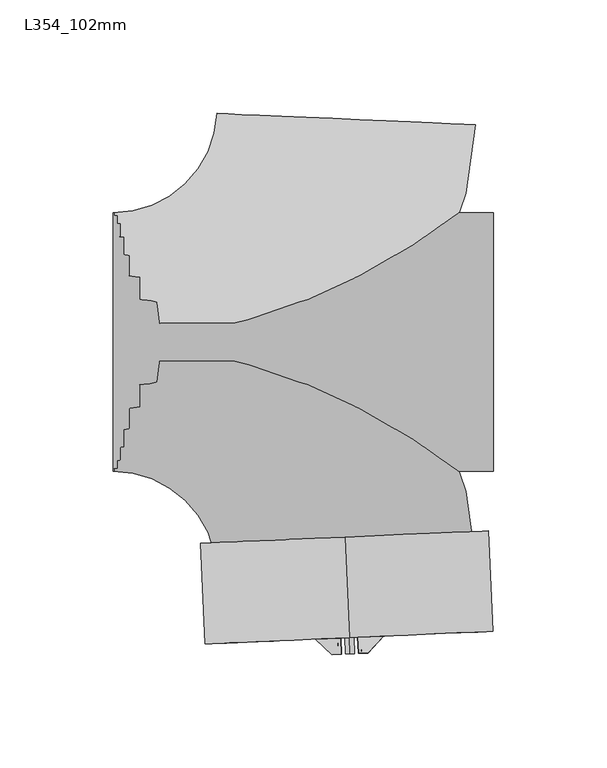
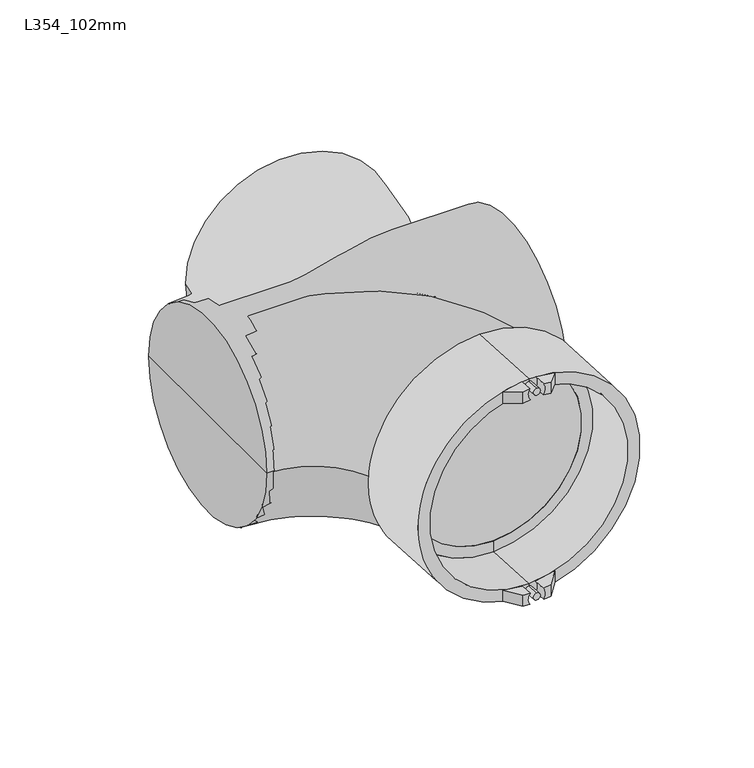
"""IFC4 building model written with IfcOpenShell, lengths in millimetres: pipe fitting geometry, Durapipe_PipeFitting_VulcatheneEnfusion_DoubleBranch_L35 : L354_102mm."""

from ifc_helpers import new_model, si_unit, point, frame, frame_2d, origin, place, context, project, spatial, polyline, circle_curve, ellipse_curve, trimmed, segment, composite_curve, outline, extrude, source, transform, mapped, element, save
from ifc_brep_helpers import plane_surface, cylinder_surface, revolved_surface, advanced_brep


def l354_102mm_241b6396(model_context):
    return source(origin(), model_context, "Body", "SolidModel", [
        advanced_brep(
        [(9.7100443, -137.2166448, -57.0290942), (9.9141237, -137.2077345, -63.4790942), (13.930527, -137.0323745, -63.1024278), (13.930527, -137.0323745, -56.5957498), (20.6741098, -129.6311793, -61.805825), (9.604426, -130.1144921, -63.4790942), (9.4003467, -130.1234024, -57.0290942), (20.6741098, -129.6311793, -55.1463734)],
        [
            (0, 1, circle_curve(frame((5.9980841, -137.3787124, -60.375), z_axis=(-0.04361938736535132, 0.9990482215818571, 0.0), x_axis=(0.0, 0.0, 1.0)), 5.0)),
            (1, 2, circle_curve(frame((5.9980841, -137.3787124, 0.0), z_axis=(0.04361938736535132, -0.9990482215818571, 0.0), x_axis=(0.0, 0.0, 1.0)), 63.6)),
            (2, 3),
            (3, 0, circle_curve(frame((5.9980841, -137.3787124, 0.0), z_axis=(-0.04361938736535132, 0.9990482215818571, 0.0), x_axis=(0.0, 0.0, 1.0)), 57.15)),
            (4, 5, circle_curve(frame((5.6883865, -130.2854701, 0.0), z_axis=(-0.04361938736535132, 0.9990482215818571, 0.0), x_axis=(0.0, 0.0, 1.0)), 63.6)),
            (5, 6, circle_curve(frame((5.6883865, -130.2854701, -60.375), z_axis=(0.04361938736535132, -0.9990482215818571, 0.0), x_axis=(0.0, 0.0, 1.0)), 5.0)),
            (6, 7, circle_curve(frame((5.6883865, -130.2854701, 0.0), z_axis=(0.04361938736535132, -0.9990482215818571, 0.0), x_axis=(0.0, 0.0, 1.0)), 57.15)),
            (7, 4),
            (6, 0),
            (3, 7, ellipse_curve(frame((6.3463843, -145.3560983, 0.0), z_axis=(0.739182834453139, -0.6735048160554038, 0.0), x_axis=(0.6735048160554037, 0.7391828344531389, 0.0)), 81.0515868, 57.15)),
            (4, 2, ellipse_curve(frame((6.3463843, -145.3560983, 0.0), z_axis=(-0.739182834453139, 0.6735048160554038, 0.0), x_axis=(-0.6735048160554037, -0.7391828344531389, 0.0)), 90.1991413, 63.6)),
            (1, 5),
        ],
        [
            plane_surface(frame((20.9838074, -136.7244216, -61.805825), z_axis=(0.04361938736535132, -0.9990482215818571, 0.0), x_axis=(0.0, 0.0, 1.0))),
            plane_surface(frame((20.6741098, -129.6311793, -61.805825), z_axis=(-0.04361938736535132, 0.9990482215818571, 0.0), x_axis=(0.0, 0.0, -1.0))),
            revolved_surface(polyline([(3.8394125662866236, -87.93700461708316, 57.15), (8.853356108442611, -202.77519197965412, 57.15)]), (5.6883865, -130.2854701, 0.0), (-0.04361938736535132, 0.9990482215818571, 0.0)),
            cylinder_surface(frame((5.6883865, -130.2854701, 0.0), z_axis=(0.04361938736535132, -0.9990482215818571, 0.0), x_axis=(0.0, 0.0, 1.0)), 63.6),
            revolved_surface(polyline([(5.998084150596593, -137.37871248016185, -55.375), (5.688386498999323, -130.28547007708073, -55.375)]), (5.6883865, -130.2854701, -60.375), (0.04361938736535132, -0.9990482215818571, 0.0)),
            plane_surface(frame((20.6741098, -129.6311793, 63.6), z_axis=(0.739182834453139, -0.6735048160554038, 0.0), x_axis=(0.0, 0.0, -1.0))),
        ],
        [
            (0, [[1, 2, 3, 4]]),
            (1, [[5, 6, 7, 8]]),
            (2, [[-7, 9, -4, 10]]),
            (3, [[-5, 11, -2, 12]]),
            (4, [[-1, -9, -6, -12]]),
            (5, [[-3, -11, -8, -10]]),
        ],
    ),
        advanced_brep(
        [(2.0820446, -137.5496904, -63.4790942), (2.2861239, -137.5407801, -57.0290942), (-1.9343588, -137.7250504, -56.5957498), (-1.9343588, -137.7250504, -63.1024278), (1.7723469, -130.456448, -63.4790942), (-9.2973369, -130.9397609, -61.805825), (-9.2973369, -130.9397609, -55.1463734), (1.9764263, -130.4475378, -57.0290942)],
        [
            (0, 1, circle_curve(frame((5.9980841, -137.3787124, -60.375), z_axis=(-0.04361938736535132, 0.9990482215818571, 0.0), x_axis=(0.0, 0.0, 1.0)), 5.0)),
            (1, 2, circle_curve(frame((5.9980841, -137.3787124, 0.0), z_axis=(-0.04361938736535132, 0.9990482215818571, 0.0), x_axis=(0.0, 0.0, 1.0)), 57.15)),
            (2, 3),
            (3, 0, circle_curve(frame((5.9980841, -137.3787124, 0.0), z_axis=(0.04361938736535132, -0.9990482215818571, 0.0), x_axis=(0.0, 0.0, 1.0)), 63.6)),
            (4, 5, circle_curve(frame((5.6883865, -130.2854701, 0.0), z_axis=(-0.04361938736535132, 0.9990482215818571, 0.0), x_axis=(0.0, 0.0, 1.0)), 63.6)),
            (5, 6),
            (6, 7, circle_curve(frame((5.6883865, -130.2854701, 0.0), z_axis=(0.04361938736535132, -0.9990482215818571, 0.0), x_axis=(0.0, 0.0, 1.0)), 57.15)),
            (7, 4, circle_curve(frame((5.6883865, -130.2854701, -60.375), z_axis=(0.04361938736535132, -0.9990482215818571, 0.0), x_axis=(0.0, 0.0, 1.0)), 5.0)),
            (6, 2, ellipse_curve(frame((6.3463843, -145.3560983, 0.0), z_axis=(-0.677670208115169, -0.7353659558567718, 0.0), x_axis=(-0.7353659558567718, 0.6776702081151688, 0.0)), 81.0515868, 57.15)),
            (1, 7),
            (4, 0),
            (3, 5, ellipse_curve(frame((6.3463843, -145.3560983, 0.0), z_axis=(0.677670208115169, 0.7353659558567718, 0.0), x_axis=(0.7353659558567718, -0.6776702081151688, 0.0)), 90.1991413, 63.6)),
        ],
        [
            plane_surface(frame((20.9838074, -136.7244216, -61.805825), z_axis=(0.04361938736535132, -0.9990482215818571, 0.0), x_axis=(0.0, 0.0, 1.0))),
            plane_surface(frame((20.6741098, -129.6311793, -61.805825), z_axis=(-0.04361938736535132, 0.9990482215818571, 0.0), x_axis=(0.0, 0.0, -1.0))),
            revolved_surface(polyline([(3.8394125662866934, -87.93700461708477, 57.15), (8.85335610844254, -202.7751919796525, 57.15)]), (5.6883865, -130.2854701, 0.0), (-0.04361938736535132, 0.9990482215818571, 0.0)),
            cylinder_surface(frame((5.6883865, -130.2854701, 0.0), z_axis=(0.04361938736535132, -0.9990482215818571, 0.0), x_axis=(0.0, 0.0, 1.0)), 63.6),
            revolved_surface(polyline([(5.99808414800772, -137.3787124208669, -55.375), (5.688386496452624, -130.28547001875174, -55.375)]), (5.6883865, -130.2854701, -60.375), (0.04361938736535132, -0.9990482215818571, 0.0)),
            plane_surface(frame((-1.9343588, -137.7250504, 63.6), z_axis=(-0.677670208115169, -0.7353659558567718, 0.0), x_axis=(0.0, 0.0, -1.0))),
        ],
        [
            (0, [[1, 2, 3, 4]]),
            (1, [[5, 6, 7, 8]]),
            (2, [[-7, 9, -2, 10]]),
            (3, [[-5, 11, -4, 12]]),
            (4, [[-1, -11, -8, -10]]),
            (5, [[-3, -9, -6, -12]]),
        ],
    ),
        advanced_brep(
        [(9.9141237, -137.2077345, 63.4790942), (9.7100443, -137.2166448, 57.0290942), (13.930527, -137.0323745, 56.5957498), (13.930527, -137.0323745, 63.1024278), (9.604426, -130.1144921, 63.4790942), (20.6741098, -129.6311793, 61.805825), (20.6741098, -129.6311793, 55.1463734), (9.4003467, -130.1234024, 57.0290942)],
        [
            (0, 1, circle_curve(frame((5.9980841, -137.3787124, 60.375), z_axis=(-0.04361938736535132, 0.9990482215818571, 0.0), x_axis=(0.0, 0.0, 1.0)), 5.0)),
            (1, 2, circle_curve(frame((5.9980841, -137.3787124, 0.0), z_axis=(-0.04361938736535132, 0.9990482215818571, 0.0), x_axis=(0.0, 0.0, 1.0)), 57.15)),
            (2, 3),
            (3, 0, circle_curve(frame((5.9980841, -137.3787124, 0.0), z_axis=(0.04361938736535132, -0.9990482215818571, 0.0), x_axis=(0.0, 0.0, 1.0)), 63.6)),
            (4, 5, circle_curve(frame((5.6883865, -130.2854701, 0.0), z_axis=(-0.04361938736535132, 0.9990482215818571, 0.0), x_axis=(0.0, 0.0, 1.0)), 63.6)),
            (5, 6),
            (6, 7, circle_curve(frame((5.6883865, -130.2854701, 0.0), z_axis=(0.04361938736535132, -0.9990482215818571, 0.0), x_axis=(0.0, 0.0, 1.0)), 57.15)),
            (7, 4, circle_curve(frame((5.6883865, -130.2854701, 60.375), z_axis=(0.04361938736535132, -0.9990482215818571, 0.0), x_axis=(0.0, 0.0, 1.0)), 5.0)),
            (6, 2, ellipse_curve(frame((6.3463843, -145.3560983, 0.0), z_axis=(0.739182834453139, -0.6735048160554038, 0.0), x_axis=(0.6735048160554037, 0.7391828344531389, 0.0)), 81.0515868, 57.15)),
            (1, 7),
            (4, 0),
            (3, 5, ellipse_curve(frame((6.3463843, -145.3560983, 0.0), z_axis=(-0.739182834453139, 0.6735048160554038, 0.0), x_axis=(-0.6735048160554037, -0.7391828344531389, 0.0)), 90.1991413, 63.6)),
        ],
        [
            plane_surface(frame((20.9838074, -136.7244216, -61.805825), z_axis=(0.04361938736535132, -0.9990482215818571, 0.0), x_axis=(0.0, 0.0, 1.0))),
            plane_surface(frame((20.6741098, -129.6311793, -61.805825), z_axis=(-0.04361938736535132, 0.9990482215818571, 0.0), x_axis=(0.0, 0.0, -1.0))),
            revolved_surface(polyline([(3.8394125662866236, -87.93700461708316, 57.15), (8.853356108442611, -202.77519197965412, 57.15)]), (5.6883865, -130.2854701, 0.0), (-0.04361938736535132, 0.9990482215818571, 0.0)),
            cylinder_surface(frame((5.6883865, -130.2854701, 0.0), z_axis=(0.04361938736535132, -0.9990482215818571, 0.0), x_axis=(0.0, 0.0, 1.0)), 63.6),
            revolved_surface(polyline([(5.998084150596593, -137.37871248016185, 65.375), (5.688386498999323, -130.28547007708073, 65.375)]), (5.6883865, -130.2854701, 60.375), (0.04361938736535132, -0.9990482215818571, 0.0)),
            plane_surface(frame((20.6741098, -129.6311793, 63.6), z_axis=(0.739182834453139, -0.6735048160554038, 0.0), x_axis=(0.0, 0.0, -1.0))),
        ],
        [
            (0, [[1, 2, 3, 4]]),
            (1, [[5, 6, 7, 8]]),
            (2, [[-7, 9, -2, 10]]),
            (3, [[-5, 11, -4, 12]]),
            (4, [[-1, -11, -8, -10]]),
            (5, [[-3, -9, -6, -12]]),
        ],
    ),
        advanced_brep(
        [(2.2861239, -137.5407801, 57.0290942), (2.0820446, -137.5496904, 63.4790942), (-1.9343588, -137.7250504, 63.1024278), (-1.9343588, -137.7250504, 56.5957498), (-9.2973369, -130.9397609, 61.805825), (1.7723469, -130.456448, 63.4790942), (1.9764263, -130.4475378, 57.0290942), (-9.2973369, -130.9397609, 55.1463734)],
        [
            (0, 1, circle_curve(frame((5.9980841, -137.3787124, 60.375), z_axis=(-0.04361938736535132, 0.9990482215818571, 0.0), x_axis=(0.0, 0.0, 1.0)), 5.0)),
            (1, 2, circle_curve(frame((5.9980841, -137.3787124, 0.0), z_axis=(0.04361938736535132, -0.9990482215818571, 0.0), x_axis=(0.0, 0.0, 1.0)), 63.6)),
            (2, 3),
            (3, 0, circle_curve(frame((5.9980841, -137.3787124, 0.0), z_axis=(-0.04361938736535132, 0.9990482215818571, 0.0), x_axis=(0.0, 0.0, 1.0)), 57.15)),
            (4, 5, circle_curve(frame((5.6883865, -130.2854701, 0.0), z_axis=(-0.04361938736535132, 0.9990482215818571, 0.0), x_axis=(0.0, 0.0, 1.0)), 63.6)),
            (5, 6, circle_curve(frame((5.6883865, -130.2854701, 60.375), z_axis=(0.04361938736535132, -0.9990482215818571, 0.0), x_axis=(0.0, 0.0, 1.0)), 5.0)),
            (6, 7, circle_curve(frame((5.6883865, -130.2854701, 0.0), z_axis=(0.04361938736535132, -0.9990482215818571, 0.0), x_axis=(0.0, 0.0, 1.0)), 57.15)),
            (7, 4),
            (6, 0),
            (3, 7, ellipse_curve(frame((6.3463843, -145.3560983, 0.0), z_axis=(-0.677670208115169, -0.7353659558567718, 0.0), x_axis=(-0.7353659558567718, 0.6776702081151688, 0.0)), 81.0515868, 57.15)),
            (4, 2, ellipse_curve(frame((6.3463843, -145.3560983, 0.0), z_axis=(0.677670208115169, 0.7353659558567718, 0.0), x_axis=(0.7353659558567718, -0.6776702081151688, 0.0)), 90.1991413, 63.6)),
            (1, 5),
        ],
        [
            plane_surface(frame((20.9838074, -136.7244216, -61.805825), z_axis=(0.04361938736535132, -0.9990482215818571, 0.0), x_axis=(0.0, 0.0, 1.0))),
            plane_surface(frame((20.6741098, -129.6311793, -61.805825), z_axis=(-0.04361938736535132, 0.9990482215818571, 0.0), x_axis=(0.0, 0.0, -1.0))),
            revolved_surface(polyline([(3.8394125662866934, -87.93700461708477, 57.15), (8.85335610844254, -202.7751919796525, 57.15)]), (5.6883865, -130.2854701, 0.0), (-0.04361938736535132, 0.9990482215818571, 0.0)),
            cylinder_surface(frame((5.6883865, -130.2854701, 0.0), z_axis=(0.04361938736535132, -0.9990482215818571, 0.0), x_axis=(0.0, 0.0, 1.0)), 63.6),
            revolved_surface(polyline([(5.99808414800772, -137.3787124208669, 65.375), (5.688386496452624, -130.28547001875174, 65.375)]), (5.6883865, -130.2854701, 60.375), (0.04361938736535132, -0.9990482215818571, 0.0)),
            plane_surface(frame((-1.9343588, -137.7250504, 63.6), z_axis=(-0.677670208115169, -0.7353659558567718, 0.0), x_axis=(0.0, 0.0, -1.0))),
        ],
        [
            (0, [[1, 2, 3, 4]]),
            (1, [[5, 6, 7, 8]]),
            (2, [[-7, 9, -4, 10]]),
            (3, [[-5, 11, -2, 12]]),
            (4, [[-1, -9, -6, -12]]),
            (5, [[-3, -11, -8, -10]]),
        ],
    ),
        extrude(outline(composite_curve([segment(trimmed(circle_curve(frame_2d((0.0, -2.0)), 2.0), [point((0.0, -4.0))], [point((0.0, 0.0))], False, "CARTESIAN"), True, "CONTINUOUS"), segment(trimmed(circle_curve(frame_2d((0.0, -2.0)), 2.0), [point((0.0, 0.0))], [point((0.0, -4.0))], False, "CARTESIAN"), True, "CONTINUOUS")], self_intersect=False)), frame((5.9980841, -137.3787124, -58.375), z_axis=(-0.04361938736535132, 0.9990482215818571, 0.0), x_axis=(-0.9990482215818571, -0.04361938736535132, 0.0)), (0.0, 0.0, 1.0), 7.1),
        extrude(outline(composite_curve([segment(trimmed(circle_curve(frame_2d((0.0, 118.75)), 2.0), [point((0.0, 116.75))], [point((0.0, 120.75))], False, "CARTESIAN"), True, "CONTINUOUS"), segment(trimmed(circle_curve(frame_2d((0.0, 118.75)), 2.0), [point((0.0, 120.75))], [point((0.0, 116.75))], False, "CARTESIAN"), True, "CONTINUOUS")], self_intersect=False)), frame((5.9980841, -137.3787124, -58.375), z_axis=(-0.04361938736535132, 0.9990482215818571, 0.0), x_axis=(-0.9990482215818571, -0.04361938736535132, 0.0)), (0.0, 0.0, 1.0), 7.1),
        advanced_brep(
        [(4.2925661, -98.315927, -50.8), (4.2925661, -98.315927, 50.8), (4.2925661, -98.315927, 57.0), (4.2925661, -98.315927, -57.0), (3.7516857, -85.927729, -50.8), (3.7516857, -85.927729, 50.8), (3.7516857, -85.927729, -63.75), (3.7516857, -85.927729, 63.75), (5.6883865, -130.2854701, -63.75), (5.6883865, -130.2854701, 63.75), (5.6883865, -130.2854701, -57.0), (5.6883865, -130.2854701, 57.0)],
        [
            (0, 1, circle_curve(frame((4.2925661, -98.315927, 0.0), z_axis=(-0.04361938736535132, 0.9990482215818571, 0.0), x_axis=(0.0, 0.0, 1.0)), 50.8)),
            (1, 2),
            (2, 3, circle_curve(frame((4.2925661, -98.315927, 0.0), z_axis=(0.04361938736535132, -0.9990482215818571, 0.0), x_axis=(0.0, 0.0, 1.0)), 57.0)),
            (3, 0),
            (1, 0, circle_curve(frame((4.2925661, -98.315927, 0.0), z_axis=(-0.04361938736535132, 0.9990482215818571, 0.0), x_axis=(0.0, 0.0, 1.0)), 50.8)),
            (3, 2, circle_curve(frame((4.2925661, -98.315927, 0.0), z_axis=(0.04361938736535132, -0.9990482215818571, 0.0), x_axis=(0.0, 0.0, 1.0)), 57.0)),
            (4, 5, circle_curve(frame((3.7516857, -85.927729, 0.0), z_axis=(-0.04361938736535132, 0.9990482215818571, 0.0), x_axis=(0.0, 0.0, 1.0)), 50.8)),
            (5, 1),
            (0, 4),
            (5, 4, circle_curve(frame((3.7516857, -85.927729, 0.0), z_axis=(-0.04361938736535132, 0.9990482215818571, 0.0), x_axis=(0.0, 0.0, 1.0)), 50.8)),
            (6, 7, circle_curve(frame((3.7516857, -85.927729, 0.0), z_axis=(-0.04361938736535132, 0.9990482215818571, 0.0), x_axis=(0.0, 0.0, 1.0)), 63.75)),
            (7, 5),
            (4, 6),
            (7, 6, circle_curve(frame((3.7516857, -85.927729, 0.0), z_axis=(-0.04361938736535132, 0.9990482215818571, 0.0), x_axis=(0.0, 0.0, 1.0)), 63.75)),
            (8, 9, circle_curve(frame((5.6883865, -130.2854701, 0.0), z_axis=(-0.04361938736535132, 0.9990482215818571, 0.0), x_axis=(0.0, 0.0, 1.0)), 63.75)),
            (9, 7),
            (6, 8),
            (9, 8, circle_curve(frame((5.6883865, -130.2854701, 0.0), z_axis=(-0.04361938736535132, 0.9990482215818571, 0.0), x_axis=(0.0, 0.0, 1.0)), 63.75)),
            (10, 11, circle_curve(frame((5.6883865, -130.2854701, 0.0), z_axis=(-0.04361938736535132, 0.9990482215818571, 0.0), x_axis=(0.0, 0.0, 1.0)), 57.0)),
            (11, 9),
            (8, 10),
            (11, 10, circle_curve(frame((5.6883865, -130.2854701, 0.0), z_axis=(-0.04361938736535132, 0.9990482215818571, 0.0), x_axis=(0.0, 0.0, 1.0)), 57.0)),
            (2, 11),
            (10, 3),
        ],
        [
            plane_surface(frame((4.2925661, -98.315927, 0.0), z_axis=(0.04361938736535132, -0.9990482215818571, 0.0), x_axis=(0.0, 0.0, 1.0))),
            revolved_surface(polyline([(4.292566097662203, -98.31592700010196, 50.8), (3.7516856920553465, -85.92772900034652, 50.8)]), (115.3467684, -2641.8753397, 0.0), (0.04361938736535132, -0.9990482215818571, 0.0)),
            plane_surface(frame((3.7516857, -85.927729, 0.0), z_axis=(-0.04361938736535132, 0.9990482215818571, 0.0), x_axis=(0.0, 0.0, 1.0))),
            cylinder_surface(frame((115.3467684, -2641.8753397, 0.0), z_axis=(0.04361938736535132, -0.9990482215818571, 0.0), x_axis=(0.0, 0.0, 1.0)), 63.75),
            plane_surface(frame((5.6883865, -130.2854701, 0.0), z_axis=(0.04361938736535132, -0.9990482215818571, 0.0), x_axis=(0.0, 0.0, 1.0))),
            revolved_surface(polyline([(5.688386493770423, -130.2854701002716, 57.0), (4.292566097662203, -98.31592700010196, 57.0)]), (115.3467684, -2641.8753397, 0.0), (0.04361938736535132, -0.9990482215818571, 0.0)),
        ],
        [
            (0, [[1, 2, 3, 4]]),
            (0, [[5, -4, 6, -2]]),
            (1, [[7, 8, -1, 9]]),
            (1, [[10, -9, -5, -8]]),
            (2, [[11, 12, -7, 13]]),
            (2, [[14, -13, -10, -12]]),
            (3, [[15, 16, -11, 17]]),
            (3, [[18, -17, -14, -16]]),
            (4, [[19, 20, -15, 21]]),
            (4, [[22, -21, -18, -20]]),
            (5, [[-3, 23, -19, 24]]),
            (5, [[-6, -24, -22, -23]]),
        ],
    ),
        advanced_brep(
        [(-98.4095911, 0.0, 0.0), (-98.4095911, 57.0, 0.0), (-98.4095911, -57.0, 0.0), (69.2904089, -57.0, 0.0), (69.2904089, 57.0, 0.0), (69.2904089, 0.0, 0.0)],
        [
            (0, 1),
            (1, 2, circle_curve(frame((-98.4095911, 0.0, 0.0), z_axis=(-1.0, 0.0, 0.0), x_axis=(0.0, 1.0, 0.0)), 57.0)),
            (2, 0),
            (2, 1, circle_curve(frame((-98.4095911, 0.0, 0.0), z_axis=(-1.0, 0.0, 0.0), x_axis=(0.0, 1.0, 0.0)), 57.0)),
            (3, 4, circle_curve(frame((69.2904089, 0.0, 0.0), z_axis=(1.0, 0.0, 0.0), x_axis=(0.0, 1.0, 0.0)), 57.0)),
            (4, 5),
            (5, 3),
            (4, 3, circle_curve(frame((69.2904089, 0.0, 0.0), z_axis=(1.0, 0.0, 0.0), x_axis=(0.0, 1.0, 0.0)), 57.0)),
            (1, 4),
            (3, 2),
        ],
        [
            plane_surface(frame((-98.4095911, 0.0, 0.0), z_axis=(-1.0, 0.0, 0.0), x_axis=(0.0, 1.0, 0.0))),
            plane_surface(frame((69.2904089, 0.0, 0.0), z_axis=(1.0, 0.0, 0.0), x_axis=(0.0, 1.0, 0.0))),
            cylinder_surface(frame((1586.2700459, 0.0, 0.0), z_axis=(-1.0, 0.0, 0.0), x_axis=(0.0, 1.0, 0.0)), 57.0),
        ],
        [
            (0, [[1, 2, 3]]),
            (0, [[-3, 4, -1]]),
            (1, [[5, 6, 7]]),
            (1, [[8, -7, -6]]),
            (2, [[-2, 9, -5, 10]]),
            (2, [[-4, -10, -8, -9]]),
        ],
    ),
        advanced_brep(
        [(-98.4095911, -57.0, 0.0), (-98.4095911, 57.0, 0.0), (-52.6531826, -100.8022321, 0.0), (61.2383147, -95.8296219, 0.0)],
        [
            (0, 1, circle_curve(frame((-98.4095911, 0.0, 0.0), z_axis=(-1.0, 0.0, 0.0), x_axis=(0.0, 1.0, 0.0)), 57.0)),
            (1, 0, circle_curve(frame((-98.4095911, 0.0, 0.0), z_axis=(-1.0, 0.0, 0.0), x_axis=(0.0, 1.0, 0.0)), 57.0)),
            (2, 3, circle_curve(frame((4.2925661, -98.315927, 0.0), z_axis=(0.0436193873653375, -0.9990482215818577, 0.0), x_axis=(0.9990482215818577, 0.0436193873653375, 0.0)), 57.0)),
            (3, 2, circle_curve(frame((4.2925661, -98.315927, 0.0), z_axis=(0.0436193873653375, -0.9990482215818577, 0.0), x_axis=(0.9990482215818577, 0.0436193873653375, 0.0)), 57.0)),
            (3, 1, circle_curve(frame((-98.4095911, -102.8, 0.0), z_axis=(0.0, 0.0, 1.0), x_axis=(0.0, 1.0, 0.0)), 159.8)),
            (0, 2, circle_curve(frame((-98.4095911, -102.8, 0.0), z_axis=(0.0, 0.0, -1.0), x_axis=(0.0, 1.0, 0.0)), 45.8)),
        ],
        [
            plane_surface(frame((-98.4095911, 0.0, 0.0), z_axis=(-1.0, 0.0, 0.0), x_axis=(0.0, 0.0, 1.0))),
            plane_surface(frame((4.2925661, -98.315927, 0.0), z_axis=(0.043619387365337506, -0.9990482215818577, 0.0), x_axis=(0.0, 0.0, 1.0))),
            revolved_surface(trimmed(ellipse_curve(frame((-98.4095911, 0.0, 0.0), z_axis=(-1.0, 0.0, 0.0), x_axis=(0.0, 1.0, 0.0)), 57.0, 57.0), [point((-98.4095911, -57.0, 0.0))], [point((-98.4095911, 57.0, 0.0))], True, "CARTESIAN"), (-98.4095911, -102.8, 0.0), (0.0, 0.0, -1.0)),
            revolved_surface(trimmed(ellipse_curve(frame((-98.4095911, 0.0, 0.0), z_axis=(-1.0, 0.0, 0.0), x_axis=(0.0, 1.0, 0.0)), 57.0, 57.0), [point((-98.4095911, 57.0, 0.0))], [point((-98.4095911, -57.0, 0.0))], True, "CARTESIAN"), (-98.4095911, -102.8, 0.0), (0.0, 0.0, -1.0)),
        ],
        [
            (0, [[1, 2]]),
            (1, [[3, 4]]),
            (2, [[5, -1, 6, -4]]),
            (3, [[-6, -2, -5, -3]]),
        ],
    ),
        advanced_brep(
        [(-98.4095911, -57.0, 0.0), (-98.4095911, 57.0, 0.0), (61.2383147, 95.8296219, 0.0), (-52.6531826, 100.8022321, 0.0)],
        [
            (0, 1, circle_curve(frame((-98.4095911, 0.0, 0.0), z_axis=(-1.0, 0.0, 0.0), x_axis=(0.0, 1.0, 0.0)), 57.0)),
            (1, 0, circle_curve(frame((-98.4095911, 0.0, 0.0), z_axis=(-1.0, 0.0, 0.0), x_axis=(0.0, 1.0, 0.0)), 57.0)),
            (2, 3, circle_curve(frame((4.2925661, 98.315927, 0.0), z_axis=(0.04361938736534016, 0.9990482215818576, 0.0), x_axis=(-0.9990482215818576, 0.04361938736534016, 0.0)), 57.0)),
            (3, 2, circle_curve(frame((4.2925661, 98.315927, 0.0), z_axis=(0.04361938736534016, 0.9990482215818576, 0.0), x_axis=(-0.9990482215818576, 0.04361938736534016, 0.0)), 57.0)),
            (3, 1, circle_curve(frame((-98.4095911, 102.8, 0.0), z_axis=(0.0, 0.0, -1.0), x_axis=(0.0, -1.0, 0.0)), 45.8)),
            (0, 2, circle_curve(frame((-98.4095911, 102.8, 0.0), z_axis=(0.0, 0.0, 1.0), x_axis=(0.0, -1.0, 0.0)), 159.8)),
        ],
        [
            plane_surface(frame((-98.4095911, 0.0, 0.0), z_axis=(-1.0, 0.0, 0.0), x_axis=(0.0, 0.0, 1.0))),
            plane_surface(frame((4.2925661, 98.315927, 0.0), z_axis=(0.04361938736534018, 0.9990482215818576, 0.0), x_axis=(0.0, 0.0, 1.0))),
            revolved_surface(trimmed(ellipse_curve(frame((-98.4095911, 0.0, 0.0), z_axis=(-1.0, 0.0, 0.0), x_axis=(0.0, 1.0, 0.0)), 57.0, 57.0), [point((-98.4095911, -57.0, 0.0))], [point((-98.4095911, 57.0, 0.0))], True, "CARTESIAN"), (-98.4095911, 102.8, 0.0), (0.0, 0.0, 1.0)),
            revolved_surface(trimmed(ellipse_curve(frame((-98.4095911, 0.0, 0.0), z_axis=(-1.0, 0.0, 0.0), x_axis=(0.0, 1.0, 0.0)), 57.0, 57.0), [point((-98.4095911, 57.0, 0.0))], [point((-98.4095911, -57.0, 0.0))], True, "CARTESIAN"), (-98.4095911, 102.8, 0.0), (0.0, 0.0, 1.0)),
        ],
        [
            (0, [[1, 2]]),
            (1, [[3, 4]]),
            (2, [[5, -1, 6, -4]]),
            (3, [[-6, -2, -5, -3]]),
        ],
    ),
    ])


if __name__ == "__main__":
    model = new_model("IFC4")
    model_context = context("Model", 3, world=origin())
    ifc_project = project(units=[si_unit("LENGTHUNIT", "METRE", prefix="MILLI")], contexts=[model_context])
    site = spatial("IfcSite", under=ifc_project)
    building = spatial("IfcBuilding", under=site)
    placement = place(None, origin())
    l354_102mm_shape = l354_102mm_241b6396(model_context)
    element("IfcPipeFitting", 1, ObjectType="Durapipe_PipeFitting_VulcatheneEnfusion_DoubleBranch_L35 : L354_102mm", at=placement, inside=building, context=model_context, shape_type="MappedRepresentation", body=[
        mapped(l354_102mm_shape, transform((0.0, 0.0, 0.0), x_axis=(1.0, 0.0, 0.0), y_axis=(0.0, 1.0, 0.0), z_axis=(0.0, 0.0, 1.0))),
    ])
    save(model, "model.ifc")
